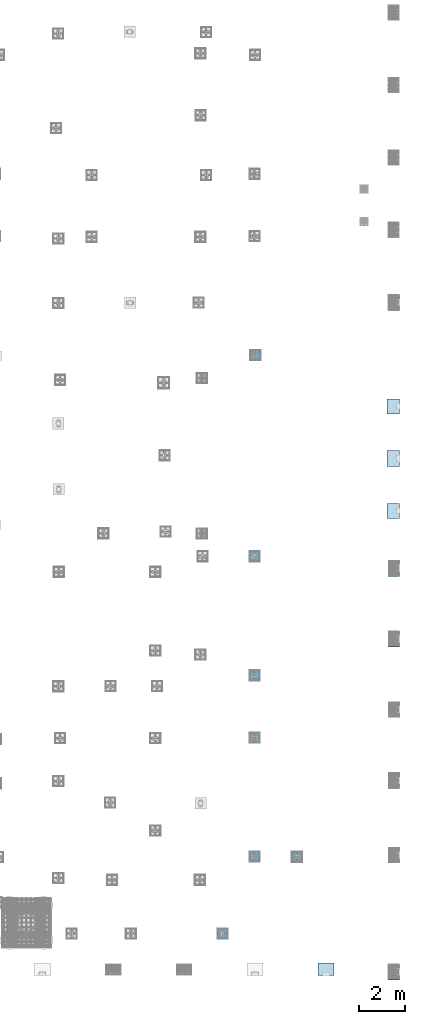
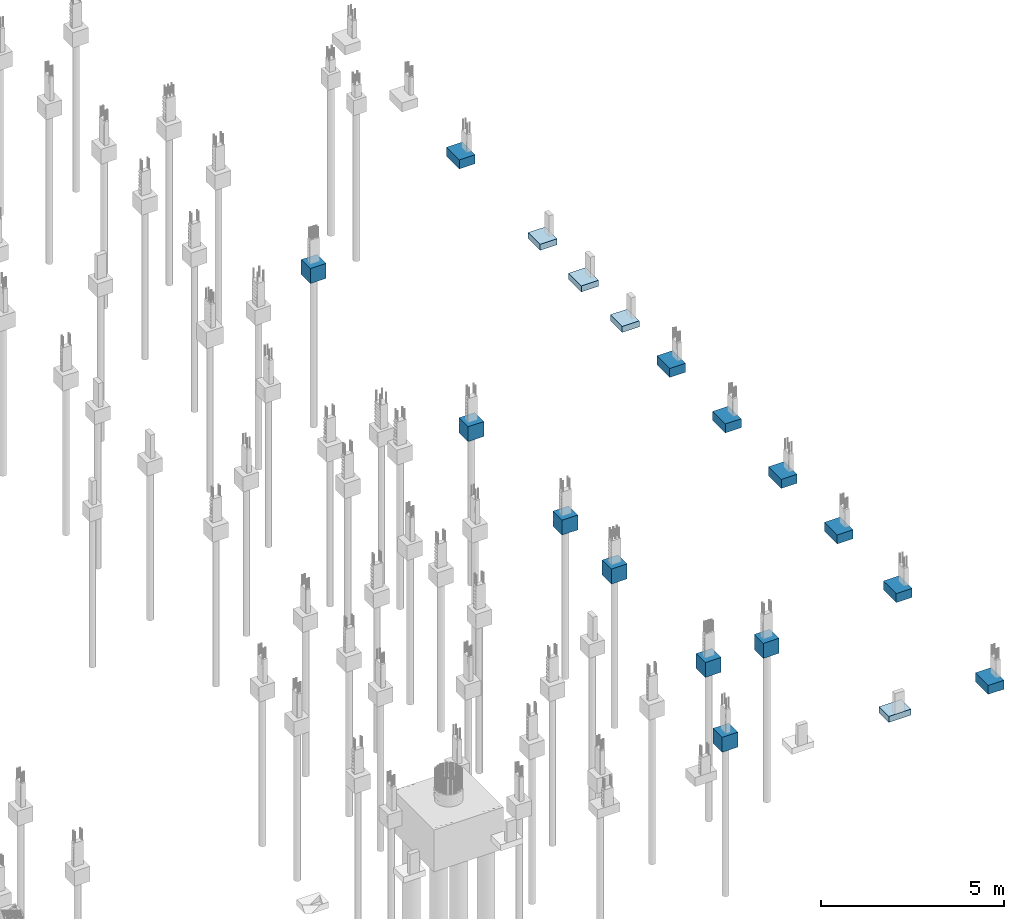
# One storey, part 119 of 119: 18 footings.
"""IFC4 building model written with IfcOpenShell, lengths in centimetres."""

from ifc_helpers import new_model, si_unit, derived_unit, frame, origin_with_axes, place, context, project, spatial, faceted_brep, material, element, save


model = new_model("IFC4")

# Units and contexts
model_context = context("Model", 3, precision=1e-05, world=origin_with_axes(), identifier="Body")
ifc_project = project(units=[si_unit("LENGTHUNIT", "METRE", prefix="CENTI"), si_unit("VOLUMEUNIT", "CUBIC_METRE"), si_unit("AREAUNIT", "SQUARE_METRE"), si_unit("POWERUNIT", "WATT"), si_unit("LUMINOUSFLUXUNIT", "LUMEN"), si_unit("ELECTRICCURRENTUNIT", "AMPERE"), si_unit("PRESSUREUNIT", "PASCAL", prefix="KILO"), si_unit("MASSUNIT", "GRAM", prefix="KILO"), si_unit("PLANEANGLEUNIT", "RADIAN"), derived_unit("VOLUMETRICFLOWRATEUNIT", [(si_unit("LENGTHUNIT", "METRE"), 3), (si_unit("TIMEUNIT", "SECOND"), -1)])], contexts=[model_context])

# Site, building, storey
site_placement = place(None, frame((-4000.0, 0.0, 0.0), z_axis=(0.0, 0.0, 1.0), x_axis=(1.0, 0.0, 0.0)))
site = spatial("IfcSite", under=ifc_project, at=site_placement, Name="PADRÃO")
building_placement = place(site_placement, frame((0.0, 0.0, -14.0)))
building = spatial("IfcBuilding", under=site, at=building_placement, Name="CRECHE PRÉ-ESCOLA TIPO 2")
storey_placement = place(building_placement, origin_with_axes())
storey = spatial("IfcBuildingStorey", under=building, at=storey_placement, Name="FUNDAÇÃO", CompositionType="ELEMENT", Elevation=-14.0)

# Footings
ifc_material = material(Name="Concreto")
for number, where, z_axis, x_axis, name in (
    (1, (3975.0, 1764.11, -59.0), (0.0, 0.0, 1.0), (1.0, 0.0, 0.0), "P100"),
    (2, (3975.0, 1458.11, -59.0), (0.0, 0.0, 1.0), (1.0, 0.0, 0.0), "P103"),
):
    element("IfcFooting", number, at=place(storey_placement, frame(where, z_axis=z_axis, x_axis=x_axis)), inside=storey, material=ifc_material, Name=name, PredefinedType="PAD_FOOTING", context=model_context, shape_type="SolidModel", body=[
        faceted_brep([(25.0, -35.0, -30.0), (-25.0, -35.0, -30.0), (-25.0, 35.0, -30.0), (25.0, 35.0, -30.0), (25.0, 35.0, 0.0), (-25.0, 35.0, 0.0), (-25.0, -35.0, 0.0), (25.0, -35.0, 0.0)], [[[0, 1, 2, 3]], [[4, 5, 6, 7]], [[4, 3, 5]], [[3, 2, 5]], [[5, 2, 6]], [[2, 1, 6]], [[6, 1, 7]], [[1, 0, 7]], [[7, 0, 4]], [[0, 3, 4]]]),
    ])
footing_1_placement = place(storey_placement, frame((3372.5, 1300.09, -80.0), z_axis=(0.0, 0.0, 1.0), x_axis=(1.0, 0.0, 0.0)))
element("IfcFooting", 3, at=footing_1_placement, inside=storey, material=ifc_material, Name="P113", context=model_context, shape_type="SolidModel", body=[
    faceted_brep([(25.0, -25.0, -50.0), (-25.0, -25.0, -50.0), (-25.0, 25.0, -50.0), (25.0, 25.0, -50.0), (25.0, 25.0, 0.0), (-25.0, 25.0, 0.0), (-25.0, -25.0, 0.0), (25.0, -25.0, 0.0)], [[[0, 1, 2, 3]], [[4, 5, 6, 7]], [[4, 3, 5]], [[3, 2, 5]], [[5, 2, 6]], [[2, 1, 6]], [[6, 1, 7]], [[1, 0, 7]], [[7, 0, 4]], [[0, 3, 4]]]),
])
footing_2_placement = place(storey_placement, frame((3975.0, 1152.11, -59.0), z_axis=(0.0, 0.0, 1.0), x_axis=(1.0, 0.0, 0.0)))
element("IfcFooting", 4, at=footing_2_placement, inside=storey, material=ifc_material, Name="P115", PredefinedType="PAD_FOOTING", context=model_context, shape_type="SolidModel", body=[
    faceted_brep([(25.0, -35.0, -30.0), (-25.0, -35.0, -30.0), (-25.0, 35.0, -30.0), (25.0, 35.0, -30.0), (25.0, 35.0, 0.0), (-25.0, 35.0, 0.0), (-25.0, -35.0, 0.0), (25.0, -35.0, 0.0)], [[[0, 1, 2, 3]], [[4, 5, 6, 7]], [[4, 3, 5]], [[3, 2, 5]], [[5, 2, 6]], [[2, 1, 6]], [[6, 1, 7]], [[1, 0, 7]], [[7, 0, 4]], [[0, 3, 4]]]),
])
footing_3_placement = place(storey_placement, frame((3372.5, 1030.08, -80.0), z_axis=(0.0, 0.0, 1.0), x_axis=(1.0, 0.0, 0.0)))
element("IfcFooting", 5, at=footing_3_placement, inside=storey, material=ifc_material, Name="P124", context=model_context, shape_type="SolidModel", body=[
    faceted_brep([(25.0, -25.0, -50.0), (-25.0, -25.0, -50.0), (-25.0, 25.0, -50.0), (25.0, 25.0, -50.0), (25.0, 25.0, 0.0), (-25.0, 25.0, 0.0), (-25.0, -25.0, 0.0), (25.0, -25.0, 0.0)], [[[0, 1, 2, 3]], [[4, 5, 6, 7]], [[4, 3, 5]], [[3, 2, 5]], [[5, 2, 6]], [[2, 1, 6]], [[6, 1, 7]], [[1, 0, 7]], [[7, 0, 4]], [[0, 3, 4]]]),
])
footing_4_placement = place(storey_placement, frame((3975.0, 846.11, -59.0), z_axis=(0.0, 0.0, 1.0), x_axis=(1.0, 0.0, 0.0)))
element("IfcFooting", 6, at=footing_4_placement, inside=storey, material=ifc_material, Name="P130", PredefinedType="PAD_FOOTING", context=model_context, shape_type="SolidModel", body=[
    faceted_brep([(25.0, -35.0, -30.0), (-25.0, -35.0, -30.0), (-25.0, 35.0, -30.0), (25.0, 35.0, -30.0), (25.0, 35.0, 0.0), (-25.0, 35.0, 0.0), (-25.0, -35.0, 0.0), (25.0, -35.0, 0.0)], [[[0, 1, 2, 3]], [[4, 5, 6, 7]], [[4, 3, 5]], [[3, 2, 5]], [[5, 2, 6]], [[2, 1, 6]], [[6, 1, 7]], [[1, 0, 7]], [[7, 0, 4]], [[0, 3, 4]]]),
])
footing_5_placement = place(storey_placement, frame((3372.5, 515.01, -80.0), z_axis=(0.0, 0.0, 1.0), x_axis=(1.0, 0.0, 0.0)))
element("IfcFooting", 7, at=footing_5_placement, inside=storey, material=ifc_material, Name="P140", context=model_context, shape_type="SolidModel", body=[
    faceted_brep([(-25.0, 25.0, -50.0), (25.0, 25.0, -50.0), (25.0, -25.0, -50.0), (-25.0, -25.0, -50.0), (-25.0, -25.0, 0.0), (25.0, -25.0, 0.0), (25.0, 25.0, 0.0), (-25.0, 25.0, 0.0)], [[[0, 1, 2, 3]], [[4, 5, 6, 7]], [[4, 3, 5]], [[3, 2, 5]], [[5, 2, 6]], [[2, 1, 6]], [[6, 1, 7]], [[1, 0, 7]], [[7, 0, 4]], [[0, 3, 4]]]),
])
footing_6_placement = place(storey_placement, frame((3556.0, 514.52, -80.0), z_axis=(0.0, 0.0, 1.0), x_axis=(1.0, 0.0, 0.0)))
element("IfcFooting", 8, at=footing_6_placement, inside=storey, material=ifc_material, Name="P141", context=model_context, shape_type="SolidModel", body=[
    faceted_brep([(25.0, -25.0, -50.0), (-25.0, -25.0, -50.0), (-25.0, 25.0, -50.0), (25.0, 25.0, -50.0), (25.0, 25.0, 0.0), (-25.0, 25.0, 0.0), (-25.0, -25.0, 0.0), (25.0, -25.0, 0.0)], [[[0, 1, 2, 3]], [[4, 5, 6, 7]], [[4, 3, 5]], [[3, 2, 5]], [[5, 2, 6]], [[2, 1, 6]], [[6, 1, 7]], [[1, 0, 7]], [[7, 0, 4]], [[0, 3, 4]]]),
])
footing_7_placement = place(storey_placement, frame((3975.0, 522.51, -59.0), z_axis=(0.0, 0.0, 1.0), x_axis=(1.0, 0.0, 0.0)))
element("IfcFooting", 9, at=footing_7_placement, inside=storey, material=ifc_material, Name="P142", PredefinedType="PAD_FOOTING", context=model_context, shape_type="SolidModel", body=[
    faceted_brep([(25.0, -35.0, -30.0), (-25.0, -35.0, -30.0), (-25.0, 35.0, -30.0), (25.0, 35.0, -30.0), (25.0, 35.0, 0.0), (-25.0, 35.0, 0.0), (-25.0, -35.0, 0.0), (25.0, -35.0, 0.0)], [[[0, 1, 2, 3]], [[4, 5, 6, 7]], [[4, 3, 5]], [[3, 2, 5]], [[5, 2, 6]], [[2, 1, 6]], [[6, 1, 7]], [[1, 0, 7]], [[7, 0, 4]], [[0, 3, 4]]]),
])
footing_8_placement = place(storey_placement, frame((3233.99, 182.5, -80.0), z_axis=(0.0, 0.0, 1.0), x_axis=(1.0, 0.0, 0.0)))
element("IfcFooting", 10, at=footing_8_placement, inside=storey, material=ifc_material, Name="P154", context=model_context, shape_type="SolidModel", body=[
    faceted_brep([(25.0, 25.0, -50.0), (25.0, -25.0, -50.0), (-25.0, -25.0, -50.0), (-25.0, 25.0, -50.0), (-25.0, 25.0, 0.0), (-25.0, -25.0, 0.0), (25.0, -25.0, 0.0), (25.0, 25.0, 0.0)], [[[0, 1, 2, 3]], [[4, 5, 6, 7]], [[4, 3, 5]], [[3, 2, 5]], [[5, 2, 6]], [[2, 1, 6]], [[6, 1, 7]], [[1, 0, 7]], [[7, 0, 4]], [[0, 3, 4]]]),
])
footing_9_placement = place(storey_placement, frame((3681.5, 29.0, -69.0), z_axis=(0.0, 0.0, 1.0), x_axis=(1.0, 0.0, 0.0)))
element("IfcFooting", 11, at=footing_9_placement, inside=storey, material=ifc_material, Name="P167", PredefinedType="PAD_FOOTING", context=model_context, shape_type="SolidModel", body=[
    faceted_brep([(-35.0, -27.0, -20.0), (-35.0, 27.0, -20.0), (35.0, 27.0, -20.0), (35.0, -27.0, -20.0), (35.0, -27.0, 0.0), (35.0, 27.0, 0.0), (-35.0, 27.0, 0.0), (-35.0, -27.0, 0.0)], [[[0, 1, 2, 3]], [[4, 5, 6, 7]], [[4, 3, 5]], [[3, 2, 5]], [[5, 2, 6]], [[2, 1, 6]], [[6, 1, 7]], [[1, 0, 7]], [[7, 0, 4]], [[0, 3, 4]]]),
])
for number, where, z_axis, x_axis, name in (
    (12, (3974.0, 17.0, -59.0), (0.0, 0.0, 1.0), (1.0, 0.0, 0.0), "P168"),
    (13, (3974.0, 2914.5, -59.0), (0.0, 0.0, 1.0), (1.0, 0.0, 0.0), "P63"),
):
    element("IfcFooting", number, at=place(storey_placement, frame(where, z_axis=z_axis, x_axis=x_axis)), inside=storey, material=ifc_material, Name=name, PredefinedType="PAD_FOOTING", context=model_context, shape_type="SolidModel", body=[
        faceted_brep([(25.0, -35.0, -30.0), (-25.0, -35.0, -30.0), (-25.0, 35.0, -30.0), (25.0, 35.0, -30.0), (25.0, 35.0, 0.0), (-25.0, 35.0, 0.0), (-25.0, -35.0, 0.0), (25.0, -35.0, 0.0)], [[[0, 1, 2, 3]], [[4, 5, 6, 7]], [[4, 3, 5]], [[3, 2, 5]], [[5, 2, 6]], [[2, 1, 6]], [[6, 1, 7]], [[1, 0, 7]], [[7, 0, 4]], [[0, 3, 4]]]),
    ])
footing_10_placement = place(storey_placement, frame((3376.0, 2685.02, -80.0), z_axis=(0.0, 0.0, 1.0), x_axis=(1.0, 0.0, 0.0)))
element("IfcFooting", 14, at=footing_10_placement, inside=storey, material=ifc_material, Name="P69", context=model_context, shape_type="SolidModel", body=[
    faceted_brep([(25.0, -25.0, -50.0), (-25.0, -25.0, -50.0), (-25.0, 25.0, -50.0), (25.0, 25.0, -50.0), (25.0, 25.0, 0.0), (-25.0, 25.0, 0.0), (-25.0, -25.0, 0.0), (25.0, -25.0, 0.0)], [[[0, 1, 2, 3]], [[4, 5, 6, 7]], [[4, 3, 5]], [[3, 2, 5]], [[5, 2, 6]], [[2, 1, 6]], [[6, 1, 7]], [[1, 0, 7]], [[7, 0, 4]], [[0, 3, 4]]]),
])
footing_11_placement = place(storey_placement, frame((3973.0, 2464.77, -69.0), z_axis=(0.0, 0.0, 1.0), x_axis=(1.0, 0.0, 0.0)))
element("IfcFooting", 15, at=footing_11_placement, inside=storey, material=ifc_material, Name="P76", PredefinedType="PAD_FOOTING", context=model_context, shape_type="SolidModel", body=[
    faceted_brep([(27.0, -32.5, -20.0), (-27.0, -32.5, -20.0), (-27.0, 32.5, -20.0), (27.0, 32.5, -20.0), (27.0, 32.5, 0.0), (-27.0, 32.5, 0.0), (-27.0, -32.5, 0.0), (27.0, -32.5, 0.0)], [[[0, 1, 2, 3]], [[4, 5, 6, 7]], [[4, 3, 5]], [[3, 2, 5]], [[5, 2, 6]], [[2, 1, 6]], [[6, 1, 7]], [[1, 0, 7]], [[7, 0, 4]], [[0, 3, 4]]]),
])
footing_12_placement = place(storey_placement, frame((3972.0, 2238.69, -69.0), z_axis=(0.0, 0.0, 1.0), x_axis=(1.0, 0.0, 0.0)))
element("IfcFooting", 16, at=footing_12_placement, inside=storey, material=ifc_material, Name="P81", PredefinedType="PAD_FOOTING", context=model_context, shape_type="SolidModel", body=[
    faceted_brep([(27.0, -35.0, -20.0), (-27.0, -35.0, -20.0), (-27.0, 35.0, -20.0), (27.0, 35.0, -20.0), (27.0, 35.0, 0.0), (-27.0, 35.0, 0.0), (-27.0, -35.0, 0.0), (27.0, -35.0, 0.0)], [[[0, 1, 2, 3]], [[4, 5, 6, 7]], [[4, 3, 5]], [[3, 2, 5]], [[5, 2, 6]], [[2, 1, 6]], [[6, 1, 7]], [[1, 0, 7]], [[7, 0, 4]], [[0, 3, 4]]]),
])
footing_13_placement = place(storey_placement, frame((3972.0, 2012.61, -69.0), z_axis=(0.0, 0.0, 1.0), x_axis=(1.0, 0.0, 0.0)))
element("IfcFooting", 17, at=footing_13_placement, inside=storey, material=ifc_material, Name="P85", PredefinedType="PAD_FOOTING", context=model_context, shape_type="SolidModel", body=[
    faceted_brep([(27.0, -32.5, -20.0), (-27.0, -32.5, -20.0), (-27.0, 32.5, -20.0), (27.0, 32.5, -20.0), (27.0, 32.5, 0.0), (-27.0, 32.5, 0.0), (-27.0, -32.5, 0.0), (27.0, -32.5, 0.0)], [[[0, 1, 2, 3]], [[4, 5, 6, 7]], [[4, 3, 5]], [[3, 2, 5]], [[5, 2, 6]], [[2, 1, 6]], [[6, 1, 7]], [[1, 0, 7]], [[7, 0, 4]], [[0, 3, 4]]]),
])
footing_14_placement = place(storey_placement, frame((3372.5, 1815.02, -80.0), z_axis=(0.0, 0.0, 1.0), x_axis=(1.0, 0.0, 0.0)))
element("IfcFooting", 18, at=footing_14_placement, inside=storey, material=ifc_material, Name="P97", context=model_context, shape_type="SolidModel", body=[
    faceted_brep([(-25.0, 25.0, -50.0), (25.0, 25.0, -50.0), (25.0, -25.0, -50.0), (-25.0, -25.0, -50.0), (-25.0, -25.0, 0.0), (25.0, -25.0, 0.0), (25.0, 25.0, 0.0), (-25.0, 25.0, 0.0)], [[[0, 1, 2, 3]], [[4, 5, 6, 7]], [[4, 3, 5]], [[3, 2, 5]], [[5, 2, 6]], [[2, 1, 6]], [[6, 1, 7]], [[1, 0, 7]], [[7, 0, 4]], [[0, 3, 4]]]),
])

save(model, "model.ifc")
